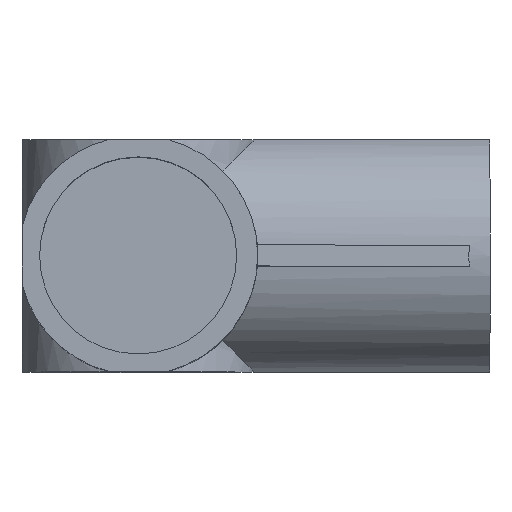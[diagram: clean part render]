
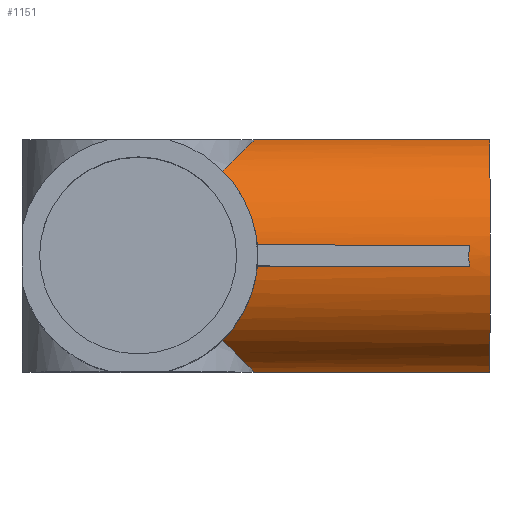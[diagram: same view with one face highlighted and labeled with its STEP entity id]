
A CAD part, top view. The second image highlights one B-rep face of the part: STEP entity #1151.
In plain terms, the highlighted cylindrical face has radius 17 mm (diameter 34 mm), a partial arc.
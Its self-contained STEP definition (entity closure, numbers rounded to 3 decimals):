
#17 = CARTESIAN_POINT ( 'NONE',  ( 16.5, 16.5, 4.093 ) ) ;
#34 = DIRECTION ( 'NONE',  ( 0., 0., -1. ) ) ;
#116 = CYLINDRICAL_SURFACE ( 'NONE', #1170, 17. ) ;
#129 = VERTEX_POINT ( 'NONE', #675 ) ;
#139 = CARTESIAN_POINT ( 'NONE',  ( 16.934, 1.5, 16.934 ) ) ;
#190 = EDGE_CURVE ( 'NONE', #442, #265, #199, .T. ) ;
#192 = CARTESIAN_POINT ( 'NONE',  ( 16.578, 5.516, 16.578 ) ) ;
#199 =( BOUNDED_CURVE ( )  B_SPLINE_CURVE ( 3, ( #17, #835, #314, #1035 ),
 .UNSPECIFIED., .F., .T. ) 
 B_SPLINE_CURVE_WITH_KNOTS ( ( 4, 4 ),
 ( 0.243, 0.785 ),
 .UNSPECIFIED. ) 
 CURVE ( )  GEOMETRIC_REPRESENTATION_ITEM ( )  RATIONAL_B_SPLINE_CURVE ( ( 1., 0.976, 0.976, 1. ) ) 
 REPRESENTATION_ITEM ( '' )  );
#210 = CARTESIAN_POINT ( 'NONE',  ( 47.066, -1.5, 16.934 ) ) ;
#223 = CARTESIAN_POINT ( 'NONE',  ( 16.578, -5.516, 16.578 ) ) ;
#262 = VECTOR ( 'NONE', #969, 1000. ) ;
#264 = CARTESIAN_POINT ( 'NONE',  ( 47.066, 1.5, 16.934 ) ) ;
#265 = VERTEX_POINT ( 'NONE', #697 ) ;
#273 = CARTESIAN_POINT ( 'NONE',  ( 16.5, 16.5, 4.093 ) ) ;
#291 = VERTEX_POINT ( 'NONE', #1087 ) ;
#297 = CARTESIAN_POINT ( 'NONE',  ( 12.021, 12.021, 12.021 ) ) ;
#314 = CARTESIAN_POINT ( 'NONE',  ( 14.221, 14.221, 9.821 ) ) ;
#338 = CARTESIAN_POINT ( 'NONE',  ( 16.934, -1.5, 16.934 ) ) ;
#352 = CARTESIAN_POINT ( 'NONE',  ( 16.934, 1.5, 16.934 ) ) ;
#358 = VERTEX_POINT ( 'NONE', #651 ) ;
#424 = CARTESIAN_POINT ( 'NONE',  ( 12.021, -12.021, 12.021 ) ) ;
#432 = ORIENTED_EDGE ( 'NONE', *, *, #190, .T. ) ;
#436 = CARTESIAN_POINT ( 'NONE',  ( 12.021, -12.021, 12.021 ) ) ;
#442 = VERTEX_POINT ( 'NONE', #273 ) ;
#464 = EDGE_CURVE ( 'NONE', #291, #1106, #1167, .T. ) ;
#472 =( BOUNDED_CURVE ( )  B_SPLINE_CURVE ( 3, ( #338, #223, #1286, #436 ),
 .UNSPECIFIED., .F., .F. ) 
 B_SPLINE_CURVE_WITH_KNOTS ( ( 4, 4 ),
 ( 0.088, 0.785 ),
 .UNSPECIFIED. ) 
 CURVE ( )  GEOMETRIC_REPRESENTATION_ITEM ( )  RATIONAL_B_SPLINE_CURVE ( ( 1., 0.96, 0.96, 1. ) ) 
 REPRESENTATION_ITEM ( '' )  );
#479 = ORIENTED_EDGE ( 'NONE', *, *, #597, .T. ) ;
#498 = CARTESIAN_POINT ( 'NONE',  ( 15.751, -15.751, 7.112 ) ) ;
#506 = DIRECTION ( 'NONE',  ( -1., 0., 0. ) ) ;
#525 = EDGE_CURVE ( 'NONE', #129, #1074, #922, .T. ) ;
#575 =( BOUNDED_CURVE ( )  B_SPLINE_CURVE ( 3, ( #297, #711, #192, #139 ),
 .UNSPECIFIED., .F., .F. ) 
 B_SPLINE_CURVE_WITH_KNOTS ( ( 4, 4 ),
 ( 5.498, 6.195 ),
 .UNSPECIFIED. ) 
 CURVE ( )  GEOMETRIC_REPRESENTATION_ITEM ( )  RATIONAL_B_SPLINE_CURVE ( ( 1., 0.96, 0.96, 1. ) ) 
 REPRESENTATION_ITEM ( '' )  );
#581 = DIRECTION ( 'NONE',  ( -1., 0., 0. ) ) ;
#591 = VERTEX_POINT ( 'NONE', #1228 ) ;
#597 = EDGE_CURVE ( 'NONE', #897, #129, #719, .T. ) ;
#614 = CARTESIAN_POINT ( 'NONE',  ( 46.978, -0.501, 17.022 ) ) ;
#633 = CARTESIAN_POINT ( 'NONE',  ( -17.001, -1.5, 16.934 ) ) ;
#634 = VECTOR ( 'NONE', #581, 1000. ) ;
#651 = CARTESIAN_POINT ( 'NONE',  ( 12.021, -12.021, 12.021 ) ) ;
#665 = LINE ( 'NONE', #1078, #634 ) ;
#675 = CARTESIAN_POINT ( 'NONE',  ( 47.066, -1.5, 16.934 ) ) ;
#683 = CARTESIAN_POINT ( 'NONE',  ( -17.001, 16.5, 4.093 ) ) ;
#697 = CARTESIAN_POINT ( 'NONE',  ( 12.021, 12.021, 12.021 ) ) ;
#707 = VERTEX_POINT ( 'NONE', #352 ) ;
#711 = CARTESIAN_POINT ( 'NONE',  ( 14.872, 9.17, 14.872 ) ) ;
#719 =( BOUNDED_CURVE ( )  B_SPLINE_CURVE ( 3, ( #1153, #944, #614, #210 ),
 .UNSPECIFIED., .F., .T. ) 
 B_SPLINE_CURVE_WITH_KNOTS ( ( 4, 4 ),
 ( 3.053, 3.23 ),
 .UNSPECIFIED. ) 
 CURVE ( )  GEOMETRIC_REPRESENTATION_ITEM ( )  RATIONAL_B_SPLINE_CURVE ( ( 1., 0.997, 0.997, 1. ) ) 
 REPRESENTATION_ITEM ( '' )  );
#737 = CARTESIAN_POINT ( 'NONE',  ( 16.934, -1.5, 16.934 ) ) ;
#743 = FACE_OUTER_BOUND ( 'NONE', #994, .T. ) ;
#748 = CARTESIAN_POINT ( 'NONE',  ( 50., -16.5, 4.093 ) ) ;
#793 = CARTESIAN_POINT ( 'NONE',  ( 50., 0., 0. ) ) ;
#835 = CARTESIAN_POINT ( 'NONE',  ( 15.751, 15.751, 7.112 ) ) ;
#850 = CARTESIAN_POINT ( 'NONE',  ( -17.001, 0., 0. ) ) ;
#851 = VECTOR ( 'NONE', #506, 1000. ) ;
#897 = VERTEX_POINT ( 'NONE', #264 ) ;
#900 = ORIENTED_EDGE ( 'NONE', *, *, #1234, .T. ) ;
#913 = ORIENTED_EDGE ( 'NONE', *, *, #464, .F. ) ;
#922 = LINE ( 'NONE', #633, #851 ) ;
#926 = EDGE_CURVE ( 'NONE', #358, #591, #1224, .T. ) ;
#944 = CARTESIAN_POINT ( 'NONE',  ( 46.978, 0.501, 17.022 ) ) ;
#969 = DIRECTION ( 'NONE',  ( 1., 0., 0. ) ) ;
#994 = EDGE_LOOP ( 'NONE', ( #1249, #479, #1315, #1007, #1225, #1122, #913, #900, #432, #1014 ) ) ;
#1007 = ORIENTED_EDGE ( 'NONE', *, *, #1082, .T. ) ;
#1011 = DIRECTION ( 'NONE',  ( 0., 0., -1. ) ) ;
#1014 = ORIENTED_EDGE ( 'NONE', *, *, #1044, .T. ) ;
#1035 = CARTESIAN_POINT ( 'NONE',  ( 12.021, 12.021, 12.021 ) ) ;
#1044 = EDGE_CURVE ( 'NONE', #265, #707, #575, .T. ) ;
#1074 = VERTEX_POINT ( 'NONE', #737 ) ;
#1078 = CARTESIAN_POINT ( 'NONE',  ( -17.001, 1.5, 16.934 ) ) ;
#1082 = EDGE_CURVE ( 'NONE', #1074, #358, #472, .T. ) ;
#1087 = CARTESIAN_POINT ( 'NONE',  ( 50., 16.5, 4.093 ) ) ;
#1094 = DIRECTION ( 'NONE',  ( 1., 0., 0. ) ) ;
#1106 = VERTEX_POINT ( 'NONE', #748 ) ;
#1122 = ORIENTED_EDGE ( 'NONE', *, *, #1142, .T. ) ;
#1123 = CARTESIAN_POINT ( 'NONE',  ( 16.5, -16.5, 4.093 ) ) ;
#1142 = EDGE_CURVE ( 'NONE', #591, #1106, #1266, .T. ) ;
#1151 = ADVANCED_FACE ( 'NONE', ( #743 ), #116, .T. ) ;
#1153 = CARTESIAN_POINT ( 'NONE',  ( 47.066, 1.5, 16.934 ) ) ;
#1161 = DIRECTION ( 'NONE',  ( 1., 0., 0. ) ) ;
#1167 = CIRCLE ( 'NONE', #1193, 17. ) ;
#1170 = AXIS2_PLACEMENT_3D ( 'NONE', #850, #1161, #34 ) ;
#1190 = DIRECTION ( 'NONE',  ( -1., 0., 0. ) ) ;
#1193 = AXIS2_PLACEMENT_3D ( 'NONE', #793, #1094, #1011 ) ;
#1201 = LINE ( 'NONE', #683, #1219 ) ;
#1219 = VECTOR ( 'NONE', #1190, 1000. ) ;
#1224 =( BOUNDED_CURVE ( )  B_SPLINE_CURVE ( 3, ( #424, #1254, #498, #1123 ),
 .UNSPECIFIED., .F., .F. ) 
 B_SPLINE_CURVE_WITH_KNOTS ( ( 4, 4 ),
 ( 5.498, 6.04 ),
 .UNSPECIFIED. ) 
 CURVE ( )  GEOMETRIC_REPRESENTATION_ITEM ( )  RATIONAL_B_SPLINE_CURVE ( ( 1., 0.976, 0.976, 1. ) ) 
 REPRESENTATION_ITEM ( '' )  );
#1225 = ORIENTED_EDGE ( 'NONE', *, *, #926, .T. ) ;
#1228 = CARTESIAN_POINT ( 'NONE',  ( 16.5, -16.5, 4.093 ) ) ;
#1234 = EDGE_CURVE ( 'NONE', #291, #442, #1201, .T. ) ;
#1249 = ORIENTED_EDGE ( 'NONE', *, *, #1283, .F. ) ;
#1254 = CARTESIAN_POINT ( 'NONE',  ( 14.221, -14.221, 9.821 ) ) ;
#1266 = LINE ( 'NONE', #1277, #262 ) ;
#1277 = CARTESIAN_POINT ( 'NONE',  ( -17.001, -16.5, 4.093 ) ) ;
#1283 = EDGE_CURVE ( 'NONE', #897, #707, #665, .T. ) ;
#1286 = CARTESIAN_POINT ( 'NONE',  ( 14.872, -9.17, 14.872 ) ) ;
#1315 = ORIENTED_EDGE ( 'NONE', *, *, #525, .T. ) ;
